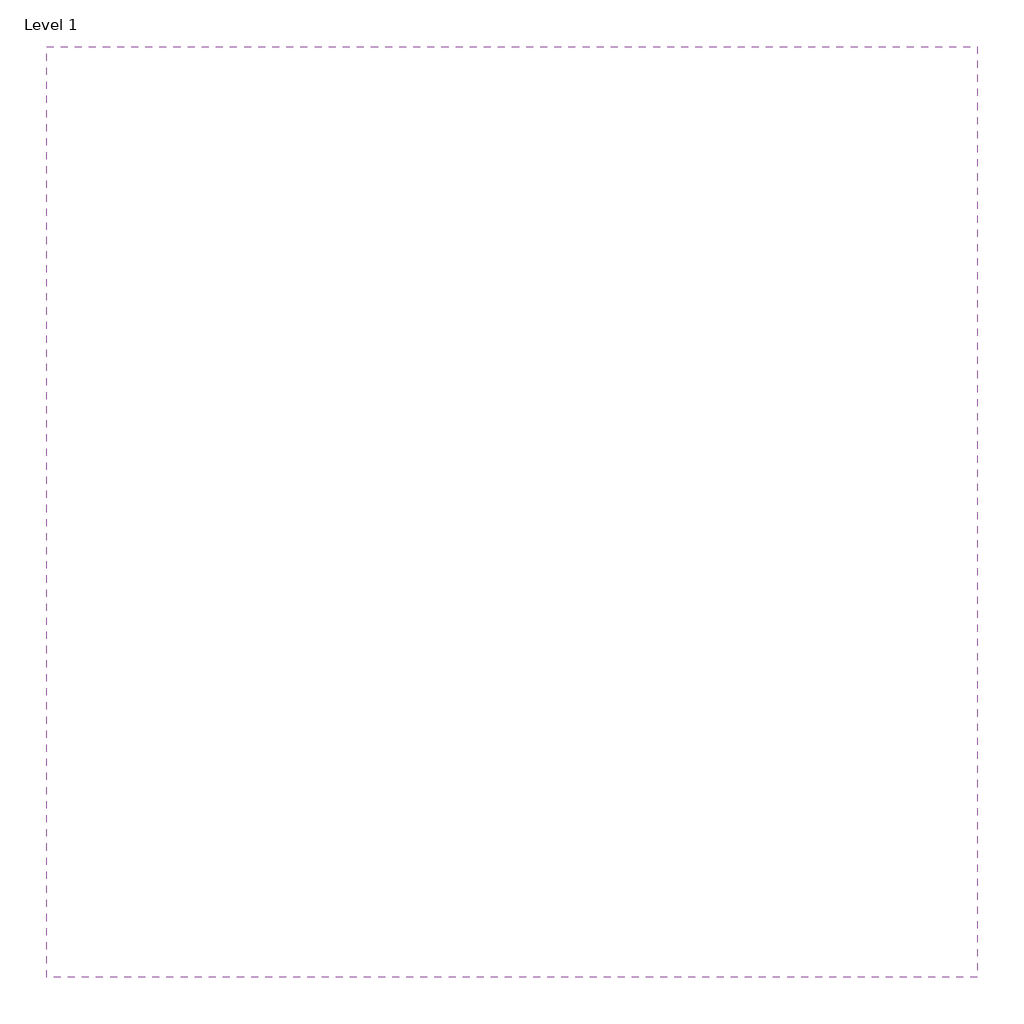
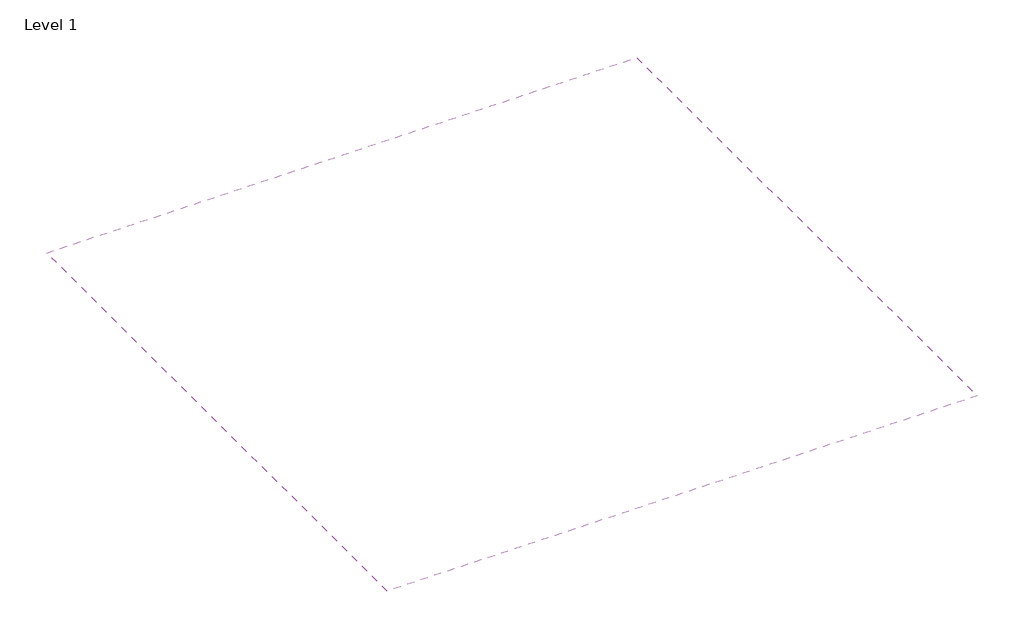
# One storey: 1 covering.
"""IFC4 building model written with IfcOpenShell, lengths in millimetres."""

import ifcopenshell
import ifcopenshell.guid

model = None  # the IFC model being written
_history = None  # IfcOwnerHistory: only IFC2X3 demands one
_inside = {}  # id of a spatial element -> (the spatial element, [elements in it])
_under = {}  # id of a project, library or spatial element -> (it, [spatial elements below it])
_declared = {}  # id of a project -> (the project, [libraries it declares])
_typed = {}  # id of a type object -> (the type object, [elements of that type])
_made_of = {}  # id of a material, layer set ... -> (it, [elements and type objects made of it])


def new_model(schema):
    """Start an empty IFC model of exactly this schema.

    Asked for "IFC4X3", IfcOpenShell would pick the latest addendum, in which some entities
    have other attributes; the version numbers below select the first issue.
    IFC2X3 requires an IfcOwnerHistory on every rooted entity: one is made here for all.
    """
    global model, _history
    if schema == "IFC4X3":
        model = ifcopenshell.file(schema_version=(4, 3, 0, 0))
    else:
        model = ifcopenshell.file(schema=schema)
    _inside.clear()
    _under.clear()
    _declared.clear()
    _typed.clear()
    _made_of.clear()
    _history = None
    if model.schema == "IFC2X3":
        org = make("IfcOrganization", Name="unknown")
        user = make(
            "IfcPersonAndOrganization",
            ThePerson=make("IfcPerson", FamilyName="unknown"),
            TheOrganization=org,
        )
        app = make(
            "IfcApplication",
            ApplicationDeveloper=org,
            Version="unknown",
            ApplicationFullName="unknown",
            ApplicationIdentifier="unknown",
        )
        _history = make(
            "IfcOwnerHistory",
            OwningUser=user,
            OwningApplication=app,
            ChangeAction="ADDED",
            CreationDate=0,
        )
    return model


def make(cls, **values):
    """One entity of the class cls with the attributes given. An attribute that is None is left unset."""
    return model.create_entity(
        cls, **{name: value for name, value in values.items() if value is not None}
    )


def rooted(cls, **values):
    """An entity with a GlobalId (a new one), such as an element, a storey or a relation."""
    return make(cls, GlobalId=ifcopenshell.guid.new(), OwnerHistory=_history, **values)


def si_unit(unit_type, name, prefix=None):
    """IfcSIUnit, for example si_unit("LENGTHUNIT", "METRE", prefix="MILLI")."""
    return make("IfcSIUnit", UnitType=unit_type, Prefix=prefix, Name=name)


def assignment(units):
    """IfcUnitAssignment: the units of a project."""
    return None if units is None else make("IfcUnitAssignment", Units=units)


def point(xyz):
    """IfcCartesianPoint."""
    return None if xyz is None else make("IfcCartesianPoint", Coordinates=xyz)


def direction(xyz):
    """IfcDirection."""
    return None if xyz is None else make("IfcDirection", DirectionRatios=xyz)


def frame(location, z_axis=None, x_axis=None):
    """IfcAxis2Placement3D, a coordinate frame: its origin and axes. An axis left out is left unset."""
    return make(
        "IfcAxis2Placement3D",
        Location=point(location),
        Axis=direction(z_axis),
        RefDirection=direction(x_axis),
    )


def origin():
    """The frame at (0, 0, 0) with its axes left unset."""
    return frame((0.0, 0.0, 0.0))


def place(relative_to, where):
    """IfcLocalPlacement: puts the frame where relative to a parent placement (None: the world)."""
    return make(
        "IfcLocalPlacement", PlacementRelTo=relative_to, RelativePlacement=where
    )


def context(
    kind, dimensions, precision=None, world=None, true_north=None, identifier=None
):
    """IfcGeometricRepresentationContext, for example the 3D "Model" context."""
    return make(
        "IfcGeometricRepresentationContext",
        ContextIdentifier=identifier,
        ContextType=kind,
        CoordinateSpaceDimension=dimensions,
        Precision=precision,
        WorldCoordinateSystem=world,
        TrueNorth=true_north,
    )


def project(units=None, contexts=None):
    """IfcProject with its units and contexts."""
    return rooted(
        "IfcProject",
        Name="project",
        RepresentationContexts=contexts,
        UnitsInContext=assignment(units),
    )


def spatial(cls, under=None, at=None, **own):
    """A site, building, storey or space (cls), placed at a placement, below another one or the project."""
    s = rooted(cls, ObjectPlacement=at, **own)
    if under is not None:
        _under.setdefault(under.id(), (under, []))[1].append(s)
    return s


def polyline(points):
    """IfcPolyline through the points."""
    return make("IfcPolyline", Points=[point(p) for p in points])


def outline(outer, holes=None, kind="AREA"):
    """IfcArbitraryClosedProfileDef: a profile drawn as a closed curve; with holes, ...WithVoids."""
    if holes is None:
        return make("IfcArbitraryClosedProfileDef", ProfileType=kind, OuterCurve=outer)
    return make(
        "IfcArbitraryProfileDefWithVoids",
        ProfileType=kind,
        OuterCurve=outer,
        InnerCurves=holes,
    )


def extrude(swept, where, along, depth):
    """IfcExtrudedAreaSolid: the profile swept, set in the frame where, extruded along a direction by depth."""
    return make(
        "IfcExtrudedAreaSolid",
        SweptArea=swept,
        Position=where,
        ExtrudedDirection=direction(along),
        Depth=depth,
    )


def shape(context_of_items, identifier, shape_type, items):
    """IfcShapeRepresentation: the items that make up one representation, for example the "Body"."""
    return make(
        "IfcShapeRepresentation",
        ContextOfItems=context_of_items,
        RepresentationIdentifier=identifier,
        RepresentationType=shape_type,
        Items=items,
    )


def made_of(thing, what):
    """Note that an element or type object is made of a material, layer set ...; save() writes the relation."""
    if what is not None:
        _made_of.setdefault(what.id(), (what, []))[1].append(thing)
    return thing


def element(
    cls,
    number,
    at=None,
    inside=None,
    cuts=None,
    type_object=None,
    material=None,
    context=None,
    identifier="Body",
    shape_type=None,
    held_by="IfcProductDefinitionShape",
    body=None,
    shapes=None,
    **own,
):
    """One element of the class cls, such as IfcWall. Its Tag is "e" and its number.

    at: its placement. inside: the storey or other place that contains it. cuts: it is an
    opening in that element (IfcRelVoidsElement). A single representation is given by context,
    identifier, shape_type and body (its items); several are given by shapes. held_by: the class
    of the entity that holds the representations. save() writes the other relations.
    """
    e = rooted(cls, Tag="e%d" % number, ObjectPlacement=at, **own)
    if body is not None:
        shapes = [shape(context, identifier, shape_type, body)]
    if shapes is not None:
        e.Representation = make(held_by, Representations=shapes)
    if inside is not None:
        _inside.setdefault(inside.id(), (inside, []))[1].append(e)
    if cuts is not None:
        rooted(
            "IfcRelVoidsElement", RelatingBuildingElement=cuts, RelatedOpeningElement=e
        )
    if type_object is not None:
        _typed.setdefault(type_object.id(), (type_object, []))[1].append(e)
    return made_of(e, material)


def aggregate(whole, parts):
    """IfcRelAggregates: a whole, such as a stair, and the parts it consists of."""
    return rooted("IfcRelAggregates", RelatingObject=whole, RelatedObjects=parts)


def save(model, path):
    """Write the relations noted so far, then the file.

    IfcRelAggregates (storeys below a building ...), IfcRelContainedInSpatialStructure (elements
    in a storey), IfcRelDefinesByType, IfcRelAssociatesMaterial and IfcRelDeclares: one each for
    every whole, place, type object, material and project.
    """
    for whole, parts in _under.values():
        aggregate(whole, parts)
    for where, things in _inside.values():
        rooted(
            "IfcRelContainedInSpatialStructure",
            RelatedElements=things,
            RelatingStructure=where,
        )
    for kind, things in _typed.values():
        rooted("IfcRelDefinesByType", RelatedObjects=things, RelatingType=kind)
    for what, things in _made_of.values():
        rooted("IfcRelAssociatesMaterial", RelatedObjects=things, RelatingMaterial=what)
    for by, libraries in _declared.values():
        rooted("IfcRelDeclares", RelatingContext=by, RelatedDefinitions=libraries)
    model.write(path)


model = new_model("IFC4")

# Units and contexts
model_context = context("Model", 3, world=origin())
ifc_project = project(units=[si_unit("LENGTHUNIT", "METRE", prefix="MILLI")], contexts=[model_context])

# Site, building, storey
site = spatial("IfcSite", under=ifc_project)
building = spatial("IfcBuilding", under=site)
storey = spatial("IfcBuildingStorey", under=building, Name="Level 1", Elevation=0.0)

# Covering
placement = place(None, origin())
element("IfcCovering", 1, ObjectType="NBS_ArmstrongCeilingsLtd_UnitModularSuspendedCeilingSystem_SaharaMaxTegular-Prelude24Exposed_600x600x18mm_GB", at=placement, inside=storey, context=model_context, shape_type="SweptSolid", body=[
    extrude(outline(polyline([(2500.0, 2500.0), (2500.0, 0.0), (0.0, 0.0), (0.0, 2500.0), (2500.0, 2500.0)])), frame((0.0, 0.0, 2600.0), z_axis=(0.0, 0.0, 1.0), x_axis=(1.0, 0.0, 0.0)), (0.0, 0.0, 1.0), 49.5),
])

save(model, "model.ifc")
